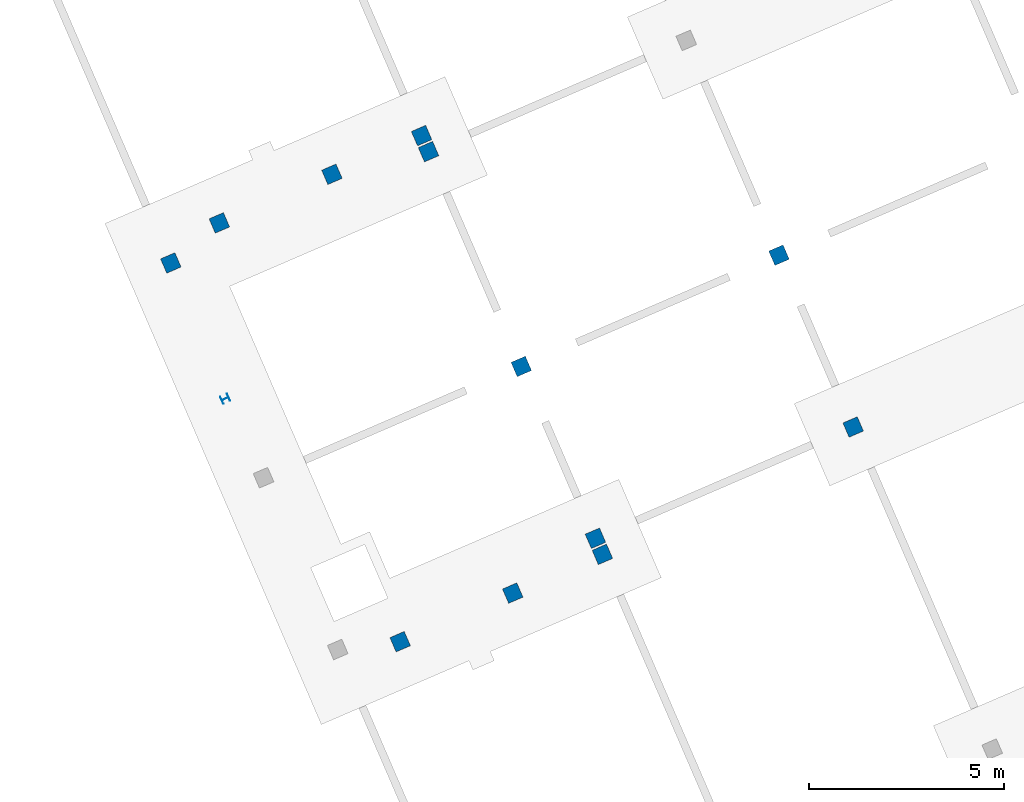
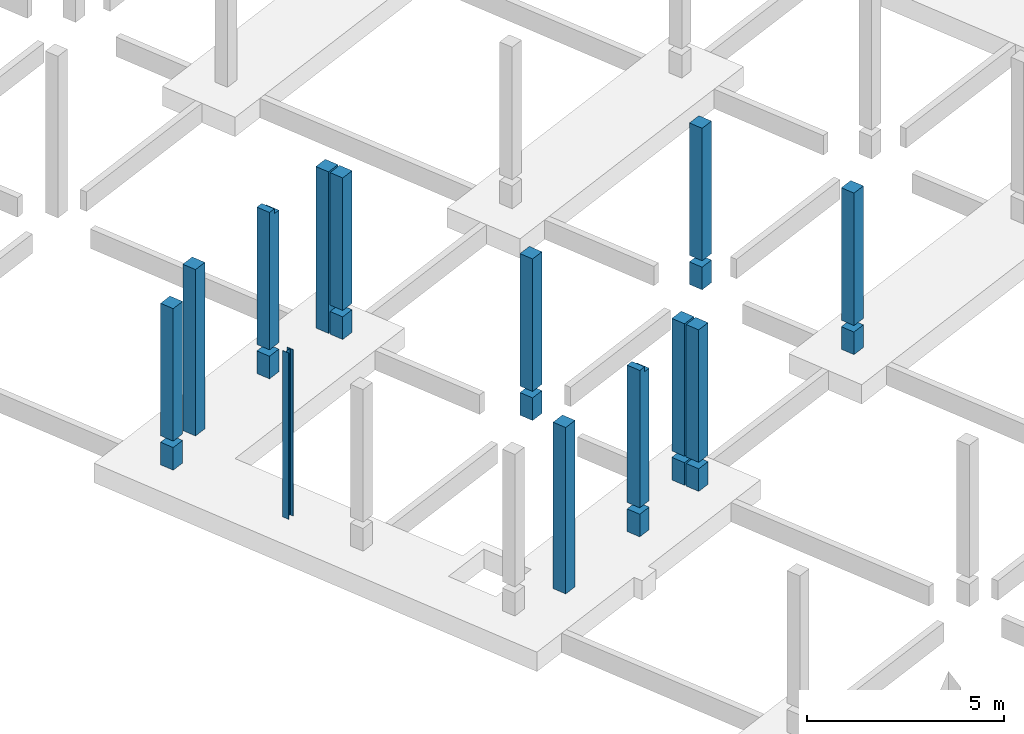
# One storey, part 2 of 11: 13 columns.
"""IFC4 building model written with IfcOpenShell, lengths in metres."""

from ifc_helpers import new_model, entity, si_unit, converted_unit, derived_unit, direction, frame, origin, place, context, subcontext, project, spatial, line, arc, indexed_curve, outline, extrude, source, transform, mapped, material, type_object, type_shapes, element, save


model = new_model("IFC4")

# Units and contexts
model_context = context("Model", 3, precision=1e-05, world=origin(), true_north=direction((6.12323399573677e-17, 1.0)))
body_context = subcontext(model_context, "Body", "Model", "MODEL_VIEW")
ifc_project = project(units=[si_unit("LENGTHUNIT", "METRE"), si_unit("AREAUNIT", "SQUARE_METRE"), si_unit("VOLUMEUNIT", "CUBIC_METRE"), converted_unit("PLANEANGLEUNIT", "DEGREE", entity("IfcPlaneAngleMeasure", 0.0174532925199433), si_unit("PLANEANGLEUNIT", "RADIAN"), dimensions=[0, 0, 0, 0, 0, 0, 0]), si_unit("MASSUNIT", "GRAM", prefix="KILO"), derived_unit("MOMENTOFINERTIAUNIT", [(si_unit("LENGTHUNIT", "METRE"), 4)]), derived_unit("LINEARFORCEUNIT", [(si_unit("MASSUNIT", "GRAM", prefix="KILO"), 1), (si_unit("TIMEUNIT", "SECOND"), -2)]), derived_unit("WARPINGCONSTANTUNIT", [(si_unit("LENGTHUNIT", "METRE"), 6)]), derived_unit("THERMALTRANSMITTANCEUNIT", [(si_unit("MASSUNIT", "GRAM", prefix="KILO"), 1), (si_unit("THERMODYNAMICTEMPERATUREUNIT", "KELVIN"), -1), (si_unit("TIMEUNIT", "SECOND"), -3)]), derived_unit("USERDEFINED", [(si_unit("MASSUNIT", "GRAM", prefix="KILO"), 1), (si_unit("TIMEUNIT", "SECOND"), -2), (si_unit("THERMODYNAMICTEMPERATUREUNIT", "KELVIN"), -1)]), derived_unit("THERMALRESISTANCEUNIT", [(si_unit("MASSUNIT", "GRAM", prefix="KILO"), -1), (si_unit("TIMEUNIT", "SECOND"), 3), (si_unit("THERMODYNAMICTEMPERATUREUNIT", "KELVIN"), 1)])], contexts=[model_context])

# Site, building, storey
site_placement = place(None, origin())
site = spatial("IfcSite", under=ifc_project, at=site_placement, Name="Default", CompositionType="ELEMENT")
building_placement = place(site_placement, frame((12.6613425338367, -82.5732315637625, 317.15), z_axis=(0.0, 0.0, 1.0), x_axis=(-0.396377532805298, 0.918087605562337, 0.0)))
building = spatial("IfcBuilding", under=site, at=building_placement, Name="CESFAM Coyhaique", CompositionType="ELEMENT")
storey_placement = place(building_placement, frame((0.0, 0.0, -0.950000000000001)))
storey = spatial("IfcBuildingStorey", under=building, at=storey_placement, Name="d_Fundaciones", CompositionType="ELEMENT", Elevation=-0.950000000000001)

# Columns
ifc_material_1 = material(Name="HA")
column_type_1 = type_object("IfcColumnType", Name="M_Concrete-Square-Column:400 x 400mm", PredefinedType="COLUMN", material=ifc_material_1)
shared_shape_1 = source(origin(), body_context, "Body", "SweptSolid", [
    extrude(outline(indexed_curve([(-0.199999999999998, -0.2), (0.200000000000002, -0.2), (0.200000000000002, 0.2), (-0.199999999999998, 0.2), (-0.199999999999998, -0.2)], self_intersect=False)), frame((23.9688534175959, 10.0028504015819, -0.950000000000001), z_axis=(0.0, 0.0, 1.0), x_axis=(-1.0, 0.0, 0.0)), (0.0, 0.0, 1.0), 0.7),
    extrude(outline(indexed_curve([(-0.199999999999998, -0.2), (0.200000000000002, -0.2), (0.200000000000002, 0.2), (-0.199999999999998, 0.2), (-0.199999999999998, -0.2)], self_intersect=False)), frame((23.9688534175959, 10.0028504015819, -0.0500000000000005), z_axis=(0.0, 0.0, 1.0), x_axis=(-1.0, 0.0, 0.0)), (0.0, 0.0, 1.0), 4.10000000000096),
])
type_shapes(column_type_1, [shared_shape_1])
column_1_placement = place(storey_placement, frame((0.0, 0.0, 0.950000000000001)))
element("IfcColumn", 1, at=column_1_placement, inside=storey, type_object=column_type_1, Name="M_Concrete-Square-Column:400 x 400mm", ObjectType="M_Concrete-Square-Column:400 x 400mm", PredefinedType="COLUMN", context=body_context, shape_type="MappedRepresentation", body=[
    mapped(shared_shape_1, transform((0.0, 0.0, 0.0), scale=1.0)),
])
column_type_2 = type_object("IfcColumnType", Name="M_Concrete-Square-Column:400 x 400mm", PredefinedType="COLUMN", material=ifc_material_1)
shared_shape_2 = source(origin(), body_context, "Body", "SweptSolid", [
    extrude(outline(indexed_curve([(-0.199999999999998, -0.2), (0.200000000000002, -0.2), (0.200000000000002, 0.2), (-0.199999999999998, 0.2), (-0.199999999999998, -0.2)], self_intersect=False)), frame((23.9688534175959, 2.8028504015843, -0.950000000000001), z_axis=(0.0, 0.0, 1.0), x_axis=(-1.0, 0.0, 0.0)), (0.0, 0.0, 1.0), 0.7),
    extrude(outline(indexed_curve([(-0.199999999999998, -0.2), (0.200000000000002, -0.2), (0.200000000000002, 0.2), (-0.199999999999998, 0.2), (-0.199999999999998, -0.2)], self_intersect=False)), frame((23.9688534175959, 2.8028504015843, -0.0500000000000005), z_axis=(0.0, 0.0, 1.0), x_axis=(-1.0, 0.0, 0.0)), (0.0, 0.0, 1.0), 4.10000000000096),
])
type_shapes(column_type_2, [shared_shape_2])
column_2_placement = place(storey_placement, frame((0.0, 0.0, 0.950000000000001)))
element("IfcColumn", 2, at=column_2_placement, inside=storey, type_object=column_type_2, Name="M_Concrete-Square-Column:400 x 400mm", ObjectType="M_Concrete-Square-Column:400 x 400mm", PredefinedType="COLUMN", context=body_context, shape_type="MappedRepresentation", body=[
    mapped(shared_shape_2, transform((0.0, 0.0, 0.0), scale=1.0)),
])
column_type_3 = type_object("IfcColumnType", Name="M_Concrete-Square-Column:400 x 400mm", PredefinedType="COLUMN", material=ifc_material_1)
shared_shape_3 = source(origin(), body_context, "Body", "SweptSolid", [
    extrude(outline(indexed_curve([(-0.200000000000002, -0.2), (0.199999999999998, -0.2), (0.199999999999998, 0.2), (-0.200000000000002, 0.2), (-0.200000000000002, -0.2)], self_intersect=False)), frame((28.7688534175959, 10.0028504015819, -0.950000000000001), z_axis=(0.0, 0.0, 1.0), x_axis=(-1.0, 0.0, 0.0)), (0.0, 0.0, 1.0), 0.7),
    extrude(outline(indexed_curve([(-0.200000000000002, -0.2), (0.199999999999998, -0.2), (0.199999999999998, 0.2), (-0.200000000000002, 0.2), (-0.200000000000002, -0.2)], self_intersect=False)), frame((28.7688534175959, 10.0028504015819, -0.0500000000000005), z_axis=(0.0, 0.0, 1.0), x_axis=(-1.0, 0.0, 0.0)), (0.0, 0.0, 1.0), 4.10000000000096),
])
type_shapes(column_type_3, [shared_shape_3])
column_3_placement = place(storey_placement, frame((0.0, 0.0, 0.950000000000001)))
element("IfcColumn", 3, at=column_3_placement, inside=storey, type_object=column_type_3, Name="M_Concrete-Square-Column:400 x 400mm", ObjectType="M_Concrete-Square-Column:400 x 400mm", PredefinedType="COLUMN", context=body_context, shape_type="MappedRepresentation", body=[
    mapped(shared_shape_3, transform((0.0, 0.0, 0.0), scale=1.0)),
])
column_type_4 = type_object("IfcColumnType", Name="M_Concrete-Square-Column:400 x 400mm", PredefinedType="COLUMN", material=ifc_material_1)
shared_shape_4 = source(origin(), body_context, "Body", "SweptSolid", [
    extrude(outline(indexed_curve([(-0.200000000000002, -0.2), (0.199999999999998, -0.2), (0.199999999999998, 0.2), (-0.200000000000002, 0.2), (-0.200000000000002, -0.2)], self_intersect=False)), frame((28.7688534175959, 2.8028504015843, -0.950000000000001), z_axis=(0.0, 0.0, 1.0), x_axis=(-1.0, 0.0, 0.0)), (0.0, 0.0, 1.0), 0.7),
    extrude(outline(indexed_curve([(-0.200000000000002, -0.2), (0.199999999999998, -0.2), (0.199999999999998, 0.2), (-0.200000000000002, 0.2), (-0.200000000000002, -0.2)], self_intersect=False)), frame((28.7688534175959, 2.8028504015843, -0.0500000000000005), z_axis=(0.0, 0.0, 1.0), x_axis=(-1.0, 0.0, 0.0)), (0.0, 0.0, 1.0), 4.10000000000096),
])
type_shapes(column_type_4, [shared_shape_4])
column_4_placement = place(storey_placement, frame((0.0, 0.0, 0.950000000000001)))
element("IfcColumn", 4, at=column_4_placement, inside=storey, type_object=column_type_4, Name="M_Concrete-Square-Column:400 x 400mm", ObjectType="M_Concrete-Square-Column:400 x 400mm", PredefinedType="COLUMN", context=body_context, shape_type="MappedRepresentation", body=[
    mapped(shared_shape_4, transform((0.0, 0.0, 0.0), scale=1.0)),
])
column_type_5 = type_object("IfcColumnType", Name="M_Concrete-Square-Column:400 x 400mm", PredefinedType="COLUMN", material=ifc_material_1)
shared_shape_5 = source(origin(), body_context, "Body", "SweptSolid", [
    extrude(outline(indexed_curve([(-0.199999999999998, -0.2), (0.200000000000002, -0.2), (0.200000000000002, 0.2), (-0.199999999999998, 0.2), (-0.199999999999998, -0.2)], self_intersect=False)), frame((34.768853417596, 17.2028504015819, -0.950000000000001), z_axis=(0.0, 0.0, 1.0), x_axis=(-1.0, 0.0, 0.0)), (0.0, 0.0, 1.0), 0.7),
    extrude(outline(indexed_curve([(-0.199999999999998, -0.2), (0.200000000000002, -0.2), (0.200000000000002, 0.2), (-0.199999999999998, 0.2), (-0.199999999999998, -0.2)], self_intersect=False)), frame((34.768853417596, 17.2028504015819, -0.0500000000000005), z_axis=(0.0, 0.0, 1.0), x_axis=(-1.0, 0.0, 0.0)), (0.0, 0.0, 1.0), 4.10000000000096),
])
type_shapes(column_type_5, [shared_shape_5])
column_5_placement = place(storey_placement, frame((0.0, 0.0, 0.950000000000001)))
element("IfcColumn", 5, at=column_5_placement, inside=storey, type_object=column_type_5, Name="M_Concrete-Square-Column:400 x 400mm", ObjectType="M_Concrete-Square-Column:400 x 400mm", PredefinedType="COLUMN", context=body_context, shape_type="MappedRepresentation", body=[
    mapped(shared_shape_5, transform((0.0, 0.0, 0.0), scale=1.0)),
])
column_type_6 = type_object("IfcColumnType", Name="M_Concrete-Square-Column:400 x 400mm", PredefinedType="COLUMN", material=ifc_material_1)
shared_shape_6 = source(origin(), body_context, "Body", "SweptSolid", [
    extrude(outline(indexed_curve([(-0.199999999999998, -0.2), (0.200000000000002, -0.2), (0.200000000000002, 0.2), (-0.199999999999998, 0.2), (-0.199999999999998, -0.2)], self_intersect=False)), frame((34.768853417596, 10.0028504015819, -0.950000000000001), z_axis=(0.0, 0.0, 1.0), x_axis=(-1.0, 0.0, 0.0)), (0.0, 0.0, 1.0), 0.7),
    extrude(outline(indexed_curve([(-0.199999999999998, -0.2), (0.200000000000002, -0.2), (0.200000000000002, 0.2), (-0.199999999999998, 0.2), (-0.199999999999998, -0.2)], self_intersect=False)), frame((34.768853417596, 10.0028504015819, -0.0500000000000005), z_axis=(0.0, 0.0, 1.0), x_axis=(-1.0, 0.0, 0.0)), (0.0, 0.0, 1.0), 4.10000000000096),
])
type_shapes(column_type_6, [shared_shape_6])
column_6_placement = place(storey_placement, frame((0.0, 0.0, 0.950000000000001)))
element("IfcColumn", 6, at=column_6_placement, inside=storey, type_object=column_type_6, Name="M_Concrete-Square-Column:400 x 400mm", ObjectType="M_Concrete-Square-Column:400 x 400mm", PredefinedType="COLUMN", context=body_context, shape_type="MappedRepresentation", body=[
    mapped(shared_shape_6, transform((0.0, 0.0, 0.0), scale=1.0)),
])
column_type_7 = type_object("IfcColumnType", Name="M_Concrete-Square-Column:400 x 400mm", PredefinedType="COLUMN", material=ifc_material_1)
shared_shape_7 = source(origin(), body_context, "Body", "SweptSolid", [
    extrude(outline(indexed_curve([(-0.199999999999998, -0.2), (0.200000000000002, -0.2), (0.200000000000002, 0.2), (-0.199999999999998, 0.2), (-0.199999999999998, -0.2)], self_intersect=False)), frame((23.5188534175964, 10.0028504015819, -0.950000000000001), z_axis=(0.0, 0.0, 1.0), x_axis=(-1.0, 0.0, 0.0)), (0.0, 0.0, 1.0), 0.7),
    extrude(outline(indexed_curve([(-0.199999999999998, -0.2), (0.200000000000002, -0.2), (0.200000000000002, 0.2), (-0.199999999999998, 0.2), (-0.199999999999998, -0.2)], self_intersect=False)), frame((23.5188534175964, 10.0028504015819, -0.0500000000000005), z_axis=(0.0, 0.0, 1.0), x_axis=(-1.0, 0.0, 0.0)), (0.0, 0.0, 1.0), 4.10000000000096),
])
type_shapes(column_type_7, [shared_shape_7])
column_7_placement = place(storey_placement, frame((0.0, 0.0, 0.950000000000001)))
element("IfcColumn", 7, at=column_7_placement, inside=storey, type_object=column_type_7, Name="M_Concrete-Square-Column:400 x 400mm", ObjectType="M_Concrete-Square-Column:400 x 400mm", PredefinedType="COLUMN", context=body_context, shape_type="MappedRepresentation", body=[
    mapped(shared_shape_7, transform((0.0, 0.0, 0.0), scale=1.0)),
])
column_type_8 = type_object("IfcColumnType", Name="M_Concrete-Square-Column:400 x 400mm", PredefinedType="COLUMN", material=ifc_material_1)
shared_shape_8 = source(origin(), body_context, "Body", "SweptSolid", [
    extrude(outline(indexed_curve([(-0.199999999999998, -0.2), (0.200000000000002, -0.2), (0.200000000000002, 0.2), (-0.199999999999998, 0.2), (-0.199999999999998, -0.2)], self_intersect=False)), frame((23.5188534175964, 15.6528504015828, -0.950000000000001), z_axis=(0.0, 0.0, 1.0), x_axis=(-1.0, 0.0, 0.0)), (0.0, 0.0, 1.0), 5.15000000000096),
])
type_shapes(column_type_8, [shared_shape_8])
column_8_placement = place(storey_placement, frame((0.0, 0.0, 0.950000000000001)))
element("IfcColumn", 8, at=column_8_placement, inside=storey, type_object=column_type_8, Name="M_Concrete-Square-Column:400 x 400mm", ObjectType="M_Concrete-Square-Column:400 x 400mm", PredefinedType="COLUMN", context=body_context, shape_type="MappedRepresentation", body=[
    mapped(shared_shape_8, transform((0.0, 0.0, 0.0), scale=1.0)),
])
column_type_9 = type_object("IfcColumnType", Name="M_Concrete-Square-Column:400 x 400mm", PredefinedType="COLUMN", material=ifc_material_1)
shared_shape_9 = source(origin(), body_context, "Body", "SweptSolid", [
    extrude(outline(indexed_curve([(-0.199999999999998, -0.2), (0.200000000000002, -0.2), (0.200000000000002, 0.2), (-0.199999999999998, 0.2), (-0.199999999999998, -0.2)], self_intersect=False)), frame((35.2188534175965, 10.0028504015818, -0.950000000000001), z_axis=(0.0, 0.0, 1.0), x_axis=(-1.0, 0.0, 0.0)), (0.0, 0.0, 1.0), 5.00000000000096),
])
type_shapes(column_type_9, [shared_shape_9])
column_9_placement = place(storey_placement, frame((0.0, 0.0, 0.950000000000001)))
element("IfcColumn", 9, at=column_9_placement, inside=storey, type_object=column_type_9, Name="M_Concrete-Square-Column:400 x 400mm", ObjectType="M_Concrete-Square-Column:400 x 400mm", PredefinedType="COLUMN", context=body_context, shape_type="MappedRepresentation", body=[
    mapped(shared_shape_9, transform((0.0, 0.0, 0.0), scale=1.0)),
])
column_type_10 = type_object("IfcColumnType", Name="M_Concrete-Square-Column:400 x 400mm", PredefinedType="COLUMN", material=ifc_material_1)
shared_shape_10 = source(origin(), body_context, "Body", "SweptSolid", [
    extrude(outline(indexed_curve([(-0.199999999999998, -0.2), (0.200000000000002, -0.2), (0.200000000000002, 0.2), (-0.199999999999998, 0.2), (-0.199999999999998, -0.2)], self_intersect=False)), frame((35.2188534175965, 15.6528504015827, -0.950000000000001), z_axis=(0.0, 0.0, 1.0), x_axis=(-1.0, 0.0, 0.0)), (0.0, 0.0, 1.0), 5.15000000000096),
])
type_shapes(column_type_10, [shared_shape_10])
column_10_placement = place(storey_placement, frame((0.0, 0.0, 0.950000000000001)))
element("IfcColumn", 10, at=column_10_placement, inside=storey, type_object=column_type_10, Name="M_Concrete-Square-Column:400 x 400mm", ObjectType="M_Concrete-Square-Column:400 x 400mm", PredefinedType="COLUMN", context=body_context, shape_type="MappedRepresentation", body=[
    mapped(shared_shape_10, transform((0.0, 0.0, 0.0), scale=1.0)),
])
column_type_11 = type_object("IfcColumnType", Name="M_Concrete-Square-Column:400 x 400mm", PredefinedType="COLUMN", material=ifc_material_1)
shared_shape_11 = source(origin(), body_context, "Body", "SweptSolid", [
    extrude(outline(indexed_curve([(-0.200000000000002, -0.2), (0.199999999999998, -0.2), (0.199999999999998, 0.2), (-0.200000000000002, 0.2), (-0.200000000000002, -0.2)], self_intersect=False)), frame((23.5188534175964, 12.5078559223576, -0.950000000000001), z_axis=(0.0, 0.0, 1.0), x_axis=(-1.0, 0.0, 0.0)), (0.0, 0.0, 1.0), 0.7),
    extrude(outline(indexed_curve([(-0.201668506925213, -1.46666666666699), (0.00333701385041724, -1.46666666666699), (0.00333701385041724, -1.31666666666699), (0.198331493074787, -1.31666666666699), (0.198331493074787, 2.78333333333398), (-0.201668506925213, 2.78333333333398), (-0.201668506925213, -1.46666666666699)], self_intersect=False)), frame((23.3188534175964, 12.5061874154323, 2.73333333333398), z_axis=(1.0, 0.0, 0.0), x_axis=(0.0, -1.0, 0.0)), (0.0, 0.0, 1.0), 0.4),
])
type_shapes(column_type_11, [shared_shape_11])
column_11_placement = place(storey_placement, frame((0.0, 0.0, 0.950000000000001)))
element("IfcColumn", 11, at=column_11_placement, inside=storey, type_object=column_type_11, Name="M_Concrete-Square-Column:400 x 400mm", ObjectType="M_Concrete-Square-Column:400 x 400mm", PredefinedType="COLUMN", context=body_context, shape_type="MappedRepresentation", body=[
    mapped(shared_shape_11, transform((0.0, 0.0, 0.0), scale=1.0)),
])
column_type_12 = type_object("IfcColumnType", Name="M_Concrete-Square-Column:400 x 400mm", PredefinedType="COLUMN", material=ifc_material_1)
shared_shape_12 = source(origin(), body_context, "Body", "SweptSolid", [
    extrude(outline(indexed_curve([(-0.199999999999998, -0.2), (0.200000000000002, -0.2), (0.200000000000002, 0.2), (-0.199999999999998, 0.2), (-0.199999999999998, -0.2)], self_intersect=False)), frame((35.2188534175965, 12.5078519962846, -0.950000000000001), z_axis=(0.0, 0.0, 1.0), x_axis=(-1.0, 0.0, 0.0)), (0.0, 0.0, 1.0), 0.7),
    extrude(outline(indexed_curve([(-1.31666666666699, -0.198332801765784), (2.78333333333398, -0.198332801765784), (2.78333333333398, 0.201667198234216), (-1.46666666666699, 0.201667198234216), (-1.46666666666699, -0.00333439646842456), (-1.31666666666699, -0.00333439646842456), (-1.31666666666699, -0.198332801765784)], self_intersect=False)), frame((35.0188534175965, 12.5061847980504, 2.73333333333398), z_axis=(1.0, 0.0, 0.0), x_axis=(0.0, 0.0, -1.0)), (0.0, 0.0, 1.0), 0.4),
])
type_shapes(column_type_12, [shared_shape_12])
column_12_placement = place(storey_placement, frame((0.0, 0.0, 0.950000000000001)))
element("IfcColumn", 12, at=column_12_placement, inside=storey, type_object=column_type_12, Name="M_Concrete-Square-Column:400 x 400mm", ObjectType="M_Concrete-Square-Column:400 x 400mm", PredefinedType="COLUMN", context=body_context, shape_type="MappedRepresentation", body=[
    mapped(shared_shape_12, transform((0.0, 0.0, 0.0), scale=1.0)),
])
ifc_material_2 = material(Name="Steel, 45-345", Category="Metal")
column_type_13 = type_object("IfcColumnType", Name="M_W Shapes-Column:HEA 200", PredefinedType="COLUMN", material=ifc_material_2)
shared_shape_13 = source(origin(), body_context, "Body", "SweptSolid", [
    extrude(outline(indexed_curve([(-0.0999999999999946, -0.0999999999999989), (0.100000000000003, -0.0999999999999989), (0.100000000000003, -0.0889999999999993), (0.0163850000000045, -0.0889999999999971), (0.00740474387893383, -0.0852802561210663), (0.00368500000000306, -0.0763), (0.00368500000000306, 0.0763000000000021), (0.00740474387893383, 0.0852802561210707), (0.0163850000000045, 0.0890000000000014), (0.100000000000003, 0.0890000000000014), (0.100000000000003, 0.100000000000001), (-0.0999999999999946, 0.100000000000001), (-0.0999999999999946, 0.0890000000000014), (-0.0163849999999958, 0.0890000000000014), (-0.00740474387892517, 0.0852802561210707), (-0.00368499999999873, 0.0763), (-0.0036849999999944, -0.0762999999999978), (-0.00740474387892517, -0.0852802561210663), (-0.0163849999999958, -0.0889999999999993), (-0.0999999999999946, -0.0889999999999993)], segments=[line(1, 2, 3, 4), arc(4, 5, 6), line(6, 7), arc(7, 8, 9), line(9, 10, 11, 12, 13, 14), arc(14, 15, 16), line(16, 17), arc(17, 18, 19), line(19, 20, 1)], self_intersect=False)), frame((31.018853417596, 17.3028504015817, -0.950000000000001), z_axis=(0.0, 0.0, 1.0), x_axis=(-1.0, 0.0, 0.0)), (0.0, 0.0, 1.0), 5.15000000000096),
])
type_shapes(column_type_13, [shared_shape_13])
column_13_placement = place(storey_placement, frame((0.0, 0.0, 0.950000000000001)))
element("IfcColumn", 13, at=column_13_placement, inside=storey, type_object=column_type_13, Name="M_W Shapes-Column:HEA 200", ObjectType="M_W Shapes-Column:HEA 200", PredefinedType="COLUMN", context=body_context, shape_type="MappedRepresentation", body=[
    mapped(shared_shape_13, transform((0.0, 0.0, 0.0), scale=1.0)),
])

save(model, "model.ifc")
